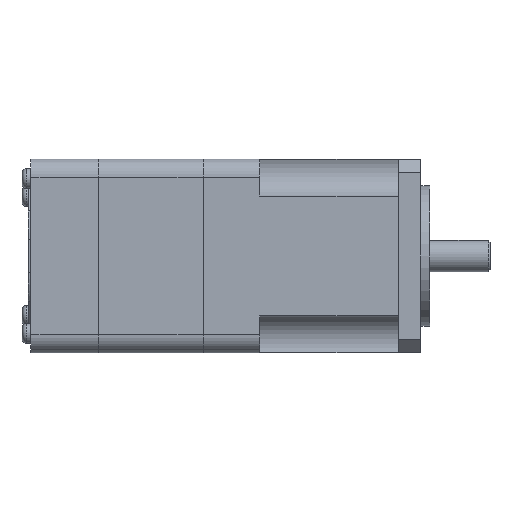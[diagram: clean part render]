
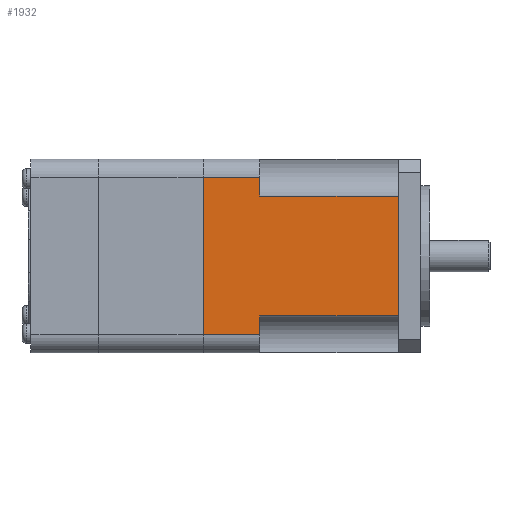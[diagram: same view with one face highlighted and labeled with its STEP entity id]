
A CAD part, front view. The second image highlights one B-rep face of the part: STEP entity #1932.
In plain terms, the highlighted planar face has unit normal (0, -1, 0).
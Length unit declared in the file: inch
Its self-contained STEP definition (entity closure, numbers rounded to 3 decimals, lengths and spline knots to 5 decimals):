
#84 = VECTOR ( 'NONE', #6639, 39.37008 ) ;
#735 = LINE ( 'NONE', #11545, #14763 ) ;
#923 = CARTESIAN_POINT ( 'NONE',  ( -2.44, -1.085, 1.085 ) ) ;
#1154 = ORIENTED_EDGE ( 'NONE', *, *, #3126, .T. ) ;
#1409 = LINE ( 'NONE', #8622, #8657 ) ;
#1932 = ADVANCED_FACE ( 'NONE', ( #14956 ), #7700, .F. ) ;
#1956 = CARTESIAN_POINT ( 'NONE',  ( -0.252, -1.085, 0.67258 ) ) ;
#2073 = VECTOR ( 'NONE', #7995, 39.37008 ) ;
#2523 = CARTESIAN_POINT ( 'NONE',  ( -2.44, -1.085, -0.885 ) ) ;
#2930 = CARTESIAN_POINT ( 'NONE',  ( -1.807, -1.085, -0.885 ) ) ;
#3125 = LINE ( 'NONE', #3655, #17123 ) ;
#3126 = EDGE_CURVE ( 'NONE', #11370, #9845, #4943, .T. ) ;
#3415 = DIRECTION ( 'NONE',  ( 1., 0., 0. ) ) ;
#3429 = ORIENTED_EDGE ( 'NONE', *, *, #12151, .T. ) ;
#3655 = CARTESIAN_POINT ( 'NONE',  ( -1.807, -1.085, 0.67258 ) ) ;
#3737 = CARTESIAN_POINT ( 'NONE',  ( -0.252, -1.085, 1.085 ) ) ;
#3786 = DIRECTION ( 'NONE',  ( -1., 0., 0. ) ) ;
#4404 = ORIENTED_EDGE ( 'NONE', *, *, #12364, .F. ) ;
#4756 = CARTESIAN_POINT ( 'NONE',  ( -1.807, -1.085, 0.67258 ) ) ;
#4829 = EDGE_LOOP ( 'NONE', ( #17044, #16609, #14023, #4404, #1154, #11367, #3429, #15229 ) ) ;
#4943 = LINE ( 'NONE', #3737, #17016 ) ;
#5010 = LINE ( 'NONE', #14256, #15388 ) ;
#5043 = DIRECTION ( 'NONE',  ( 1., 0., 0. ) ) ;
#5059 = DIRECTION ( 'NONE',  ( 0., 0., 1. ) ) ;
#5150 = CARTESIAN_POINT ( 'NONE',  ( -1.807, -1.085, 1.085 ) ) ;
#5711 = LINE ( 'NONE', #5150, #2073 ) ;
#5827 = VERTEX_POINT ( 'NONE', #2523 ) ;
#6639 = DIRECTION ( 'NONE',  ( -1., 0., 0. ) ) ;
#6743 = VERTEX_POINT ( 'NONE', #4756 ) ;
#7700 = PLANE ( 'NONE',  #16179 ) ;
#7995 = DIRECTION ( 'NONE',  ( 0., 0., 1. ) ) ;
#8622 = CARTESIAN_POINT ( 'NONE',  ( -2.44, -1.085, 1.085 ) ) ;
#8657 = VECTOR ( 'NONE', #11135, 39.37008 ) ;
#9664 = VECTOR ( 'NONE', #3786, 39.37008 ) ;
#9845 = VERTEX_POINT ( 'NONE', #1956 ) ;
#10086 = LINE ( 'NONE', #13242, #9664 ) ;
#10405 = CARTESIAN_POINT ( 'NONE',  ( -2.44, -1.085, 0.885 ) ) ;
#10469 = VERTEX_POINT ( 'NONE', #10405 ) ;
#11081 = VERTEX_POINT ( 'NONE', #2930 ) ;
#11135 = DIRECTION ( 'NONE',  ( 0., 0., 1. ) ) ;
#11355 = EDGE_CURVE ( 'NONE', #6743, #9845, #3125, .T. ) ;
#11367 = ORIENTED_EDGE ( 'NONE', *, *, #11355, .F. ) ;
#11370 = VERTEX_POINT ( 'NONE', #17169 ) ;
#11545 = CARTESIAN_POINT ( 'NONE',  ( -1.807, -1.085, 1.085 ) ) ;
#11815 = DIRECTION ( 'NONE',  ( 0., 0., 1. ) ) ;
#12056 = CARTESIAN_POINT ( 'NONE',  ( -1.807, -1.085, 0.885 ) ) ;
#12151 = EDGE_CURVE ( 'NONE', #6743, #16837, #735, .T. ) ;
#12364 = EDGE_CURVE ( 'NONE', #11370, #14535, #14115, .T. ) ;
#12914 = DIRECTION ( 'NONE',  ( 0., 0., 1. ) ) ;
#13144 = DIRECTION ( 'NONE',  ( 0., 1., 0. ) ) ;
#13242 = CARTESIAN_POINT ( 'NONE',  ( -2.44, -1.085, 0.885 ) ) ;
#13380 = CARTESIAN_POINT ( 'NONE',  ( -1.807, -1.085, -0.67258 ) ) ;
#13732 = CARTESIAN_POINT ( 'NONE',  ( -1.807, -1.085, -0.67258 ) ) ;
#14023 = ORIENTED_EDGE ( 'NONE', *, *, #14311, .T. ) ;
#14115 = LINE ( 'NONE', #13380, #84 ) ;
#14256 = CARTESIAN_POINT ( 'NONE',  ( -2.44, -1.085, -0.885 ) ) ;
#14311 = EDGE_CURVE ( 'NONE', #11081, #14535, #5711, .T. ) ;
#14535 = VERTEX_POINT ( 'NONE', #13732 ) ;
#14763 = VECTOR ( 'NONE', #12914, 39.37008 ) ;
#14956 = FACE_OUTER_BOUND ( 'NONE', #4829, .T. ) ;
#15229 = ORIENTED_EDGE ( 'NONE', *, *, #16732, .T. ) ;
#15388 = VECTOR ( 'NONE', #3415, 39.37008 ) ;
#16179 = AXIS2_PLACEMENT_3D ( 'NONE', #923, #13144, #5059 ) ;
#16205 = EDGE_CURVE ( 'NONE', #5827, #10469, #1409, .T. ) ;
#16609 = ORIENTED_EDGE ( 'NONE', *, *, #17136, .T. ) ;
#16732 = EDGE_CURVE ( 'NONE', #16837, #10469, #10086, .T. ) ;
#16837 = VERTEX_POINT ( 'NONE', #12056 ) ;
#17016 = VECTOR ( 'NONE', #11815, 39.37008 ) ;
#17044 = ORIENTED_EDGE ( 'NONE', *, *, #16205, .F. ) ;
#17123 = VECTOR ( 'NONE', #5043, 39.37008 ) ;
#17136 = EDGE_CURVE ( 'NONE', #5827, #11081, #5010, .T. ) ;
#17169 = CARTESIAN_POINT ( 'NONE',  ( -0.252, -1.085, -0.67258 ) ) ;
